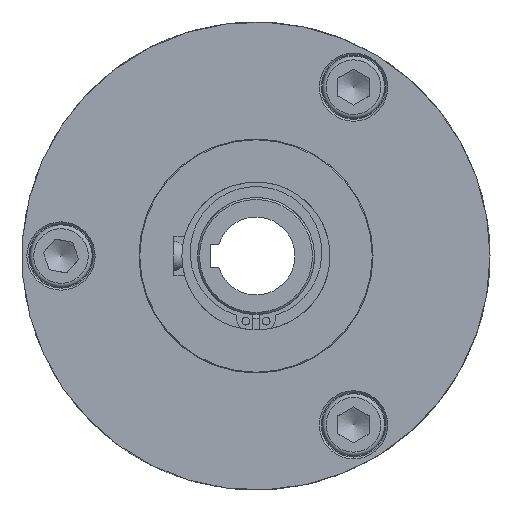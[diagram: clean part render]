
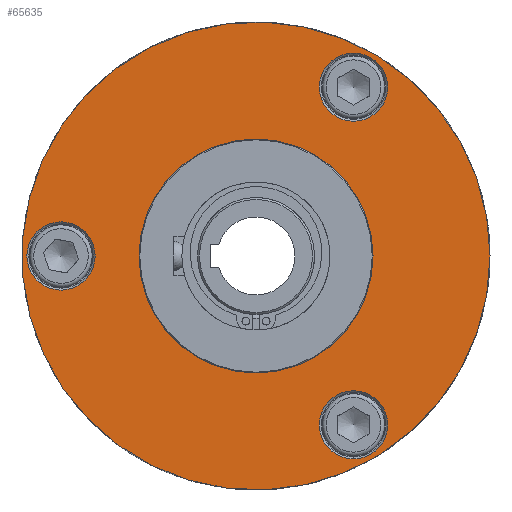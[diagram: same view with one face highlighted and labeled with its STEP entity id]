
A CAD part, left-side view. The second image highlights one B-rep face of the part: STEP entity #65635.
In plain terms, the highlighted planar face has unit normal (-1, 0, 0).
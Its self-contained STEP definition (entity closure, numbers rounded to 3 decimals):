
#10676=FACE_BOUND('',#14549,.T.);
#10677=FACE_BOUND('',#14550,.T.);
#10678=FACE_BOUND('',#14551,.T.);
#10679=FACE_BOUND('',#14552,.T.);
#11156=FACE_OUTER_BOUND('',#14548,.T.);
#14548=EDGE_LOOP('',(#39151));
#14549=EDGE_LOOP('',(#39152));
#14550=EDGE_LOOP('',(#39153));
#14551=EDGE_LOOP('',(#39154));
#14552=EDGE_LOOP('',(#39155));
#18198=CIRCLE('',#69065,60.);
#18202=CIRCLE('',#69074,8.75);
#18203=CIRCLE('',#69076,8.75);
#18204=CIRCLE('',#69077,30.);
#18205=CIRCLE('',#69078,8.75);
#21777=VERTEX_POINT('',#105558);
#21784=VERTEX_POINT('',#105617);
#21785=VERTEX_POINT('',#105620);
#21786=VERTEX_POINT('',#105622);
#21787=VERTEX_POINT('',#105624);
#28384=EDGE_CURVE('',#21777,#21777,#18198,.T.);
#28396=EDGE_CURVE('',#21784,#21784,#18202,.T.);
#28397=EDGE_CURVE('',#21785,#21785,#18203,.T.);
#28398=EDGE_CURVE('',#21786,#21786,#18204,.T.);
#28399=EDGE_CURVE('',#21787,#21787,#18205,.T.);
#39151=ORIENTED_EDGE('',*,*,#28384,.F.);
#39152=ORIENTED_EDGE('',*,*,#28397,.F.);
#39153=ORIENTED_EDGE('',*,*,#28398,.F.);
#39154=ORIENTED_EDGE('',*,*,#28399,.F.);
#39155=ORIENTED_EDGE('',*,*,#28396,.F.);
#60228=PLANE('',#69075);
#65635=ADVANCED_FACE('',(#11156,#10676,#10677,#10678,#10679),#60228,.F.);
#69065=AXIS2_PLACEMENT_3D('',#105559,#80543,#80544);
#69074=AXIS2_PLACEMENT_3D('',#105618,#80567,#80568);
#69075=AXIS2_PLACEMENT_3D('',#105619,#80569,#80570);
#69076=AXIS2_PLACEMENT_3D('',#105621,#80571,#80572);
#69077=AXIS2_PLACEMENT_3D('',#105623,#80573,#80574);
#69078=AXIS2_PLACEMENT_3D('',#105625,#80575,#80576);
#80543=DIRECTION('center_axis',(1.,0.,0.));
#80544=DIRECTION('ref_axis',(0.,1.,0.));
#80567=DIRECTION('center_axis',(-1.,0.,0.));
#80568=DIRECTION('ref_axis',(0.,-0.5,0.866));
#80569=DIRECTION('center_axis',(1.,0.,0.));
#80570=DIRECTION('ref_axis',(0.,1.,0.));
#80571=DIRECTION('center_axis',(-1.,0.,0.));
#80572=DIRECTION('ref_axis',(0.,-0.5,-0.866));
#80573=DIRECTION('center_axis',(-1.,0.,0.));
#80574=DIRECTION('ref_axis',(0.,-0.866,-0.5));
#80575=DIRECTION('center_axis',(-1.,0.,0.));
#80576=DIRECTION('ref_axis',(0.,1.,0.));
#105558=CARTESIAN_POINT('',(-89.,-60.,0.));
#105559=CARTESIAN_POINT('Origin',(-89.,0.,0.));
#105617=CARTESIAN_POINT('',(-89.,-20.625,35.724));
#105618=CARTESIAN_POINT('Origin',(-89.,-25.,43.301));
#105619=CARTESIAN_POINT('Origin',(-89.,0.,0.));
#105620=CARTESIAN_POINT('',(-89.,-20.625,-35.724));
#105621=CARTESIAN_POINT('Origin',(-89.,-25.,-43.301));
#105622=CARTESIAN_POINT('',(-89.,-30.,0.));
#105623=CARTESIAN_POINT('Origin',(-89.,0.,0.));
#105624=CARTESIAN_POINT('',(-89.,41.25,0.));
#105625=CARTESIAN_POINT('Origin',(-89.,50.,0.));
